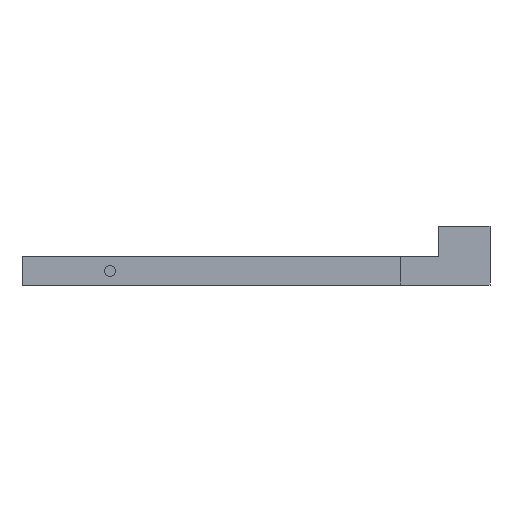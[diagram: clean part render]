
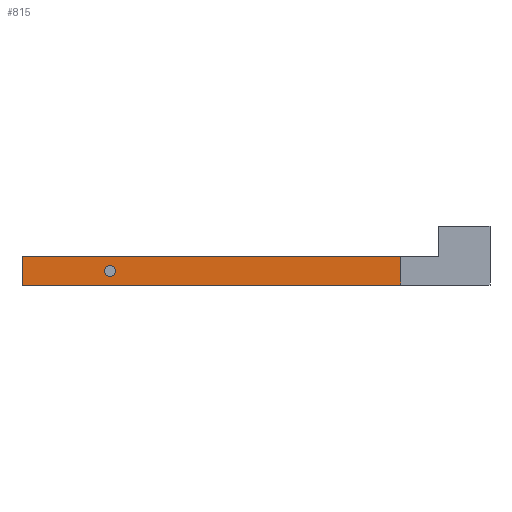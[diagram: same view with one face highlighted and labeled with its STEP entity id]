
A CAD part, left-side view. The second image highlights one B-rep face of the part: STEP entity #815.
In plain terms, the highlighted planar face has unit normal (-1, 0, 0).
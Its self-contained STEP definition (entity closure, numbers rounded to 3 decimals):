
#129=DIRECTION('',(0.,-1.,0.));
#130=VECTOR('',#129,103.);
#131=CARTESIAN_POINT('',(-175.,86.,0.));
#132=LINE('',#131,#130);
#153=DIRECTION('',(0.,0.,-1.));
#154=VECTOR('',#153,54.5);
#155=CARTESIAN_POINT('',(-175.,86.,54.5));
#156=LINE('',#155,#154);
#161=DIRECTION('',(0.,1.,0.));
#162=VECTOR('',#161,803.);
#163=CARTESIAN_POINT('',(-175.,14.,55.5));
#164=LINE('',#163,#162);
#165=CARTESIAN_POINT('',(-175.,647.,27.));
#166=DIRECTION('',(-1.,0.,0.));
#167=DIRECTION('',(0.,0.,1.));
#168=AXIS2_PLACEMENT_3D('',#165,#166,#167);
#170=CARTESIAN_POINT('',(-175.,647.,27.));
#171=DIRECTION('',(-1.,0.,0.));
#172=DIRECTION('',(0.,0.,-1.));
#173=AXIS2_PLACEMENT_3D('',#170,#171,#172);
#175=DIRECTION('',(0.,0.,1.));
#176=VECTOR('',#175,1.5);
#177=CARTESIAN_POINT('',(-175.,-17.,-1.5));
#178=LINE('',#177,#176);
#239=DIRECTION('',(0.,-1.,0.));
#240=VECTOR('',#239,72.);
#241=CARTESIAN_POINT('',(-175.,86.,54.5));
#242=LINE('',#241,#240);
#255=DIRECTION('',(0.,0.,1.));
#256=VECTOR('',#255,1.);
#257=CARTESIAN_POINT('',(-175.,14.,54.5));
#258=LINE('',#257,#256);
#421=DIRECTION('',(0.,0.,1.));
#422=VECTOR('',#421,57.);
#423=CARTESIAN_POINT('',(-175.,817.,-1.5));
#424=LINE('',#423,#422);
#441=DIRECTION('',(0.,-1.,0.));
#442=VECTOR('',#441,834.);
#443=CARTESIAN_POINT('',(-175.,817.,-1.5));
#444=LINE('',#443,#442);
#586=CARTESIAN_POINT('',(-175.,-17.,-1.5));
#588=VERTEX_POINT('',#586);
#598=CARTESIAN_POINT('',(-175.,817.,-1.5));
#600=VERTEX_POINT('',#598);
#603=CARTESIAN_POINT('',(-175.,817.,55.5));
#604=VERTEX_POINT('',#603);
#657=CARTESIAN_POINT('',(-175.,-17.,0.));
#658=VERTEX_POINT('',#657);
#661=CARTESIAN_POINT('',(-175.,86.,0.));
#662=VERTEX_POINT('',#661);
#675=CARTESIAN_POINT('',(-175.,86.,54.5));
#676=VERTEX_POINT('',#675);
#681=CARTESIAN_POINT('',(-175.,14.,54.5));
#682=VERTEX_POINT('',#681);
#685=CARTESIAN_POINT('',(-175.,14.,55.5));
#686=VERTEX_POINT('',#685);
#693=CARTESIAN_POINT('',(-175.,647.,37.65));
#694=CARTESIAN_POINT('',(-175.,647.,16.35));
#695=VERTEX_POINT('',#693);
#696=VERTEX_POINT('',#694);
#788=CARTESIAN_POINT('',(-175.,-17.,55.5));
#789=DIRECTION('',(-1.,0.,0.));
#790=DIRECTION('',(0.,0.,-1.));
#791=AXIS2_PLACEMENT_3D('',#788,#789,#790);
#792=PLANE('',#791);
#794=ORIENTED_EDGE('',*,*,#793,.F.);
#796=ORIENTED_EDGE('',*,*,#795,.F.);
#798=ORIENTED_EDGE('',*,*,#797,.T.);
#800=ORIENTED_EDGE('',*,*,#799,.F.);
#802=ORIENTED_EDGE('',*,*,#801,.F.);
#804=ORIENTED_EDGE('',*,*,#803,.F.);
#805=ORIENTED_EDGE('',*,*,#779,.T.);
#806=ORIENTED_EDGE('',*,*,#750,.T.);
#807=EDGE_LOOP('',(#794,#796,#798,#800,#802,#804,#805,#806));
#808=FACE_OUTER_BOUND('',#807,.F.);
#810=ORIENTED_EDGE('',*,*,#809,.T.);
#812=ORIENTED_EDGE('',*,*,#811,.T.);
#813=EDGE_LOOP('',(#810,#812));
#814=FACE_BOUND('',#813,.F.);
#169=CIRCLE('',#168,10.65);
#174=CIRCLE('',#173,10.65);
#750=EDGE_CURVE('',#662,#658,#132,.T.);
#779=EDGE_CURVE('',#676,#662,#156,.T.);
#793=EDGE_CURVE('',#588,#658,#178,.T.);
#795=EDGE_CURVE('',#600,#588,#444,.T.);
#797=EDGE_CURVE('',#600,#604,#424,.T.);
#799=EDGE_CURVE('',#686,#604,#164,.T.);
#801=EDGE_CURVE('',#682,#686,#258,.T.);
#803=EDGE_CURVE('',#676,#682,#242,.T.);
#809=EDGE_CURVE('',#695,#696,#169,.T.);
#811=EDGE_CURVE('',#696,#695,#174,.T.);
#815=ADVANCED_FACE('',(#808,#814),#792,.T.);
